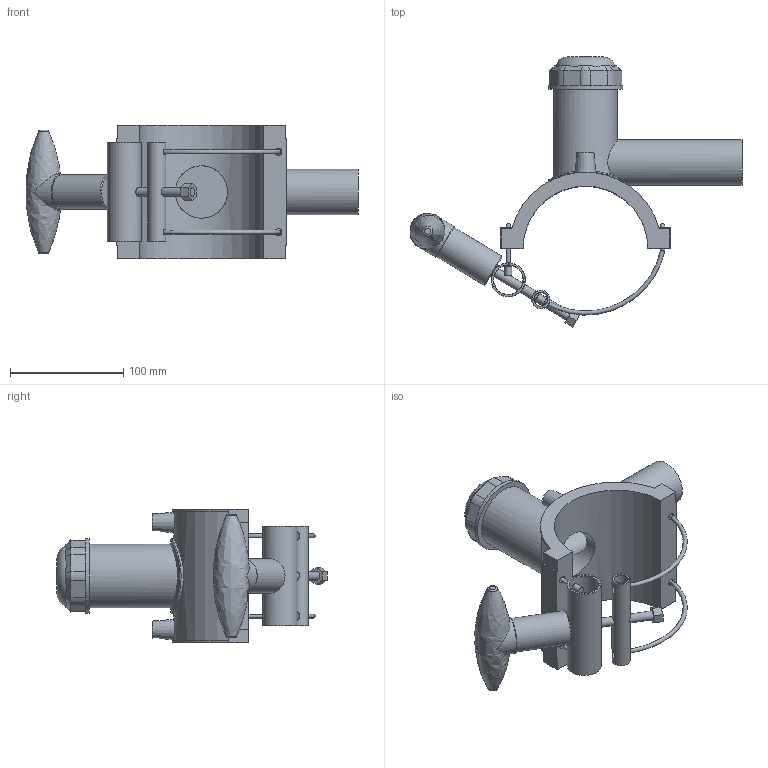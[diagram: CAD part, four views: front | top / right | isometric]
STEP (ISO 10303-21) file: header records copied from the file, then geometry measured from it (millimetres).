
FILE_DESCRIPTION(/* description */ ('PLASSON TAPPING SADDLE 110x40'),/* implementation_level */ '2;1');
FILE_NAME(/* name */ 'C:\Dropbox\99-16-3568-Processing\ElectroFusion Fittings\4963Q4 (new clamping)\4963Q4110040.ipt.stp',/* time_stamp */ '2021-03-07T12:50:29+02:00',/* author */ ('KIM'),/* organization */ (''),/* preprocessor_version */ 'ST-DEVELOPER v17.2',/* originating_system */ 'Autodesk Inventor 2019',/* authorisation */ '');
FILE_SCHEMA (('AUTOMOTIVE_DESIGN { 1 0 10303 214 3 1 1 }'));
Length unit declared in the file: millimetre
Products named in the file (1): 4963Q4110040
Bounding box: 292.68 x 238.16 x 118 mm (x, y, z)
Volume: 588185.8 mm3; surface area: 165298.7 mm2
Topology: 6 solids, 6 shells, 180 faces, 463 edges, 307 vertices
Faces by surface type: plane 87, cylinder 58, cone 19, torus 10, bspline 6
Full cylindrical faces by diameter (mm): 3.6 x5, 4 x4, 4.6 x2, 6 x8, 8 x2, 8.5 x2, 9 x2, 10 x2, 12 x1, 16 x1, 26 x1, 30 x2, 32 x2, 40 x1, 46.2 x1, 56.1 x1, 66 x1
Entity records: 7262 total; most frequent: CARTESIAN_POINT 2800, ORIENTED_EDGE 926, DIRECTION 881, EDGE_CURVE 463, AXIS2_PLACEMENT_3D 338, VERTEX_POINT 307, EDGE_LOOP 230, LINE 205
